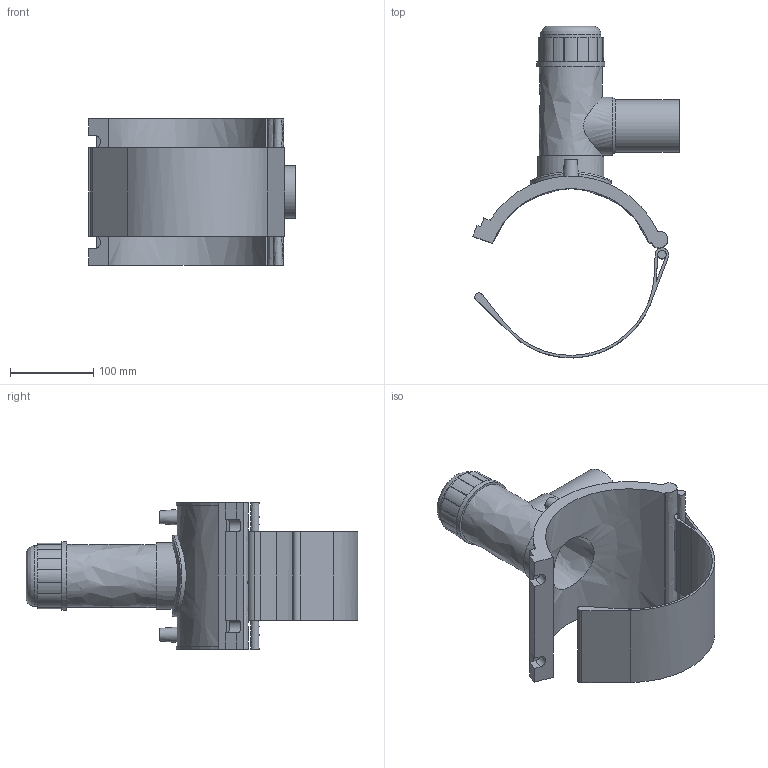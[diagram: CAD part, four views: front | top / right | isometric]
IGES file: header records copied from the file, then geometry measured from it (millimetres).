
Global section: file name: 491304200063; native system: Autodesk Inventor 2019; preprocessor: unknown; author: KIM; date: 20230323.112854; units: millimetre
Bounding box: 247.46 x 397.95 x 176 mm (x, y, z)
Volume: 1298645 mm3; surface area: 312755.2 mm2
Topology: 2 solids, 2 shells, 108 faces, 282 edges, 193 vertices
Faces by surface type: bspline 108
